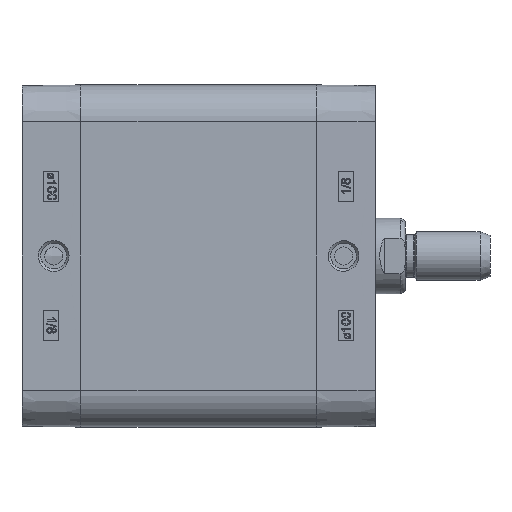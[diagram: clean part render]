
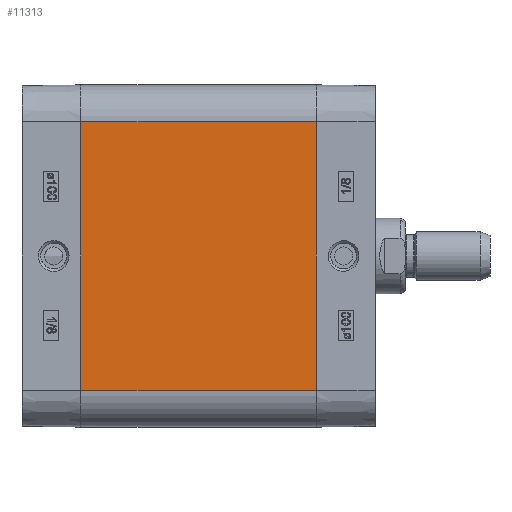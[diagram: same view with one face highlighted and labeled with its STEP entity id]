
A CAD part, left-side view. The second image highlights one B-rep face of the part: STEP entity #11313.
In plain terms, the highlighted planar face has unit normal (-1, 0, 0).
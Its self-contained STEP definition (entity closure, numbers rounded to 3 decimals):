
#5678=CARTESIAN_POINT('',(-56.65,-78.0,44.4));
#5679=VERTEX_POINT('',#5678);
#5686=CARTESIAN_POINT('',(-56.65,-78.0,-44.4));
#5687=VERTEX_POINT('',#5686);
#5688=CARTESIAN_POINT('',(-56.65,-78.0,-44.4));
#5689=DIRECTION('',(0.0,0.0,1.0));
#5690=VECTOR('',#5689,88.8);
#5691=LINE('',#5688,#5690);
#5692=EDGE_CURVE('',#5687,#5679,#5691,.T.);
#11271=CARTESIAN_POINT('',(-56.65,0.0,-44.4));
#11272=VERTEX_POINT('',#11271);
#11273=CARTESIAN_POINT('',(-56.65,0.0,-44.4));
#11274=DIRECTION('',(0.0,-1.0,0.0));
#11275=VECTOR('',#11274,78.0);
#11276=LINE('',#11273,#11275);
#11277=EDGE_CURVE('',#11272,#5687,#11276,.T.);
#11290=CARTESIAN_POINT('',(-56.65,0.0,-44.4));
#11291=DIRECTION('',(-1.0,0.0,0.0));
#11292=DIRECTION('',(0.0,0.0,1.0));
#11293=AXIS2_PLACEMENT_3D('',#11290,#11291,#11292);
#11294=PLANE('',#11293);
#11295=ORIENTED_EDGE('',*,*,#5692,.T.);
#11296=CARTESIAN_POINT('',(-56.65,0.0,44.4));
#11297=VERTEX_POINT('',#11296);
#11298=CARTESIAN_POINT('',(-56.65,0.0,44.4));
#11299=DIRECTION('',(0.0,-1.0,0.0));
#11300=VECTOR('',#11299,78.0);
#11301=LINE('',#11298,#11300);
#11302=EDGE_CURVE('',#11297,#5679,#11301,.T.);
#11303=ORIENTED_EDGE('',*,*,#11302,.F.);
#11304=CARTESIAN_POINT('',(-56.65,0.0,-44.4));
#11305=DIRECTION('',(0.0,0.0,1.0));
#11306=VECTOR('',#11305,88.8);
#11307=LINE('',#11304,#11306);
#11308=EDGE_CURVE('',#11272,#11297,#11307,.T.);
#11309=ORIENTED_EDGE('',*,*,#11308,.F.);
#11310=ORIENTED_EDGE('',*,*,#11277,.T.);
#11311=EDGE_LOOP('',(#11295,#11303,#11309,#11310));
#11312=FACE_OUTER_BOUND('',#11311,.T.);
#11313=ADVANCED_FACE('',(#11312),#11294,.T.);
